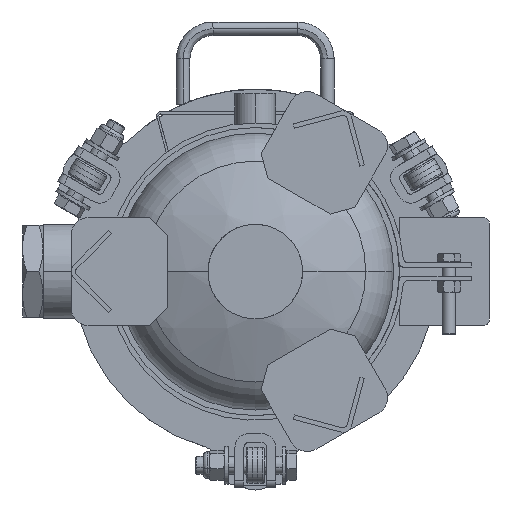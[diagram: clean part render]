
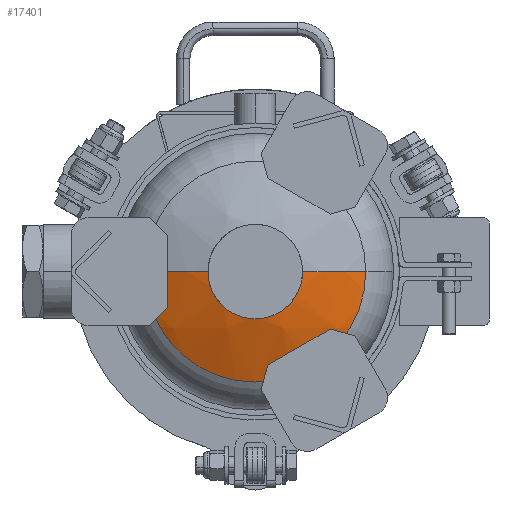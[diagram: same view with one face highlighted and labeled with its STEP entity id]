
A CAD part, front view. The second image highlights one B-rep face of the part: STEP entity #17401.
In plain terms, the highlighted spherical face has radius 174.149 mm.
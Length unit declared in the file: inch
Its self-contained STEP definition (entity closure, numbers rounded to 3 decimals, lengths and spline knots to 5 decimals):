
#571 = CIRCLE ( 'NONE', #7626, 6.85626 ) ;
#1195 = AXIS2_PLACEMENT_3D ( 'NONE', #3974, #24289, #10280 ) ;
#1957 = VERTEX_POINT ( 'NONE', #6707 ) ;
#2316 = VERTEX_POINT ( 'NONE', #5522 ) ;
#2702 = VERTEX_POINT ( 'NONE', #26507 ) ;
#3974 = CARTESIAN_POINT ( 'NONE',  ( 0., -38.5077, 0. ) ) ;
#4171 = VERTEX_POINT ( 'NONE', #14926 ) ;
#5445 = CIRCLE ( 'NONE', #1195, 3.06649 ) ;
#5522 = CARTESIAN_POINT ( 'NONE',  ( 3.06649, -38.5077, 0. ) ) ;
#6336 = ORIENTED_EDGE ( 'NONE', *, *, #16831, .F. ) ;
#6707 = CARTESIAN_POINT ( 'NONE',  ( -0.56082, -39.10487, -1.18665 ) ) ;
#7157 = CIRCLE ( 'NONE', #19863, 6.85626 ) ;
#7310 = ORIENTED_EDGE ( 'NONE', *, *, #10601, .F. ) ;
#7626 = AXIS2_PLACEMENT_3D ( 'NONE', #18816, #18264, #20635 ) ;
#8232 = DIRECTION ( 'NONE',  ( 0., 0., 1. ) ) ;
#9728 = AXIS2_PLACEMENT_3D ( 'NONE', #16236, #18890, #23587 ) ;
#10280 = DIRECTION ( 'NONE',  ( 1., 0., 0. ) ) ;
#10601 = EDGE_CURVE ( 'NONE', #4171, #2702, #7157, .T. ) ;
#11823 = FACE_OUTER_BOUND ( 'NONE', #24340, .T. ) ;
#12086 = CARTESIAN_POINT ( 'NONE',  ( 0., -39.10487, 0. ) ) ;
#12604 = DIRECTION ( 'NONE',  ( 0., 0., 1. ) ) ;
#12641 = DIRECTION ( 'NONE',  ( 0., -1., 0. ) ) ;
#13552 = ORIENTED_EDGE ( 'NONE', *, *, #16507, .T. ) ;
#14657 = CARTESIAN_POINT ( 'NONE',  ( 0., -39.10487, 0. ) ) ;
#14792 = CARTESIAN_POINT ( 'NONE',  ( 1.3125, -39.10487, 0. ) ) ;
#14926 = CARTESIAN_POINT ( 'NONE',  ( -3.06649, -38.5077, 0. ) ) ;
#16236 = CARTESIAN_POINT ( 'NONE',  ( 0., -32.37541, 0. ) ) ;
#16507 = EDGE_CURVE ( 'NONE', #4171, #2316, #5445, .T. ) ;
#16831 = EDGE_CURVE ( 'NONE', #1957, #20870, #23808, .T. ) ;
#17401 = ADVANCED_FACE ( 'Defeatured_6_135', ( #11823 ), #25521, .T. ) ;
#17706 = AXIS2_PLACEMENT_3D ( 'NONE', #14657, #19386, #12604 ) ;
#18264 = DIRECTION ( 'NONE',  ( 0., 0., -1. ) ) ;
#18816 = CARTESIAN_POINT ( 'NONE',  ( 0., -32.37541, 0. ) ) ;
#18890 = DIRECTION ( 'NONE',  ( 0., 0., -1. ) ) ;
#19386 = DIRECTION ( 'NONE',  ( 0., -1., 0. ) ) ;
#19863 = AXIS2_PLACEMENT_3D ( 'NONE', #24172, #29102, #26365 ) ;
#20166 = EDGE_CURVE ( 'NONE', #2702, #1957, #23884, .T. ) ;
#20224 = ORIENTED_EDGE ( 'NONE', *, *, #20166, .F. ) ;
#20635 = DIRECTION ( 'NONE',  ( -1., 0., 0. ) ) ;
#20870 = VERTEX_POINT ( 'NONE', #14792 ) ;
#22004 = ORIENTED_EDGE ( 'NONE', *, *, #25059, .T. ) ;
#23587 = DIRECTION ( 'NONE',  ( -1., 0., 0. ) ) ;
#23808 = CIRCLE ( 'NONE', #17706, 1.3125 ) ;
#23884 = CIRCLE ( 'NONE', #27706, 1.3125 ) ;
#24172 = CARTESIAN_POINT ( 'NONE',  ( 0., -32.37541, 0. ) ) ;
#24289 = DIRECTION ( 'NONE',  ( 0., -1., 0. ) ) ;
#24340 = EDGE_LOOP ( 'NONE', ( #13552, #22004, #6336, #20224, #7310 ) ) ;
#25059 = EDGE_CURVE ( 'NONE', #2316, #20870, #571, .T. ) ;
#25521 = SPHERICAL_SURFACE ( 'NONE', #9728, 6.85626 ) ;
#26365 = DIRECTION ( 'NONE',  ( 1., 0., 0. ) ) ;
#26507 = CARTESIAN_POINT ( 'NONE',  ( -1.3125, -39.10487, 0. ) ) ;
#27706 = AXIS2_PLACEMENT_3D ( 'NONE', #12086, #12641, #8232 ) ;
#29102 = DIRECTION ( 'NONE',  ( 0., 0., 1. ) ) ;
